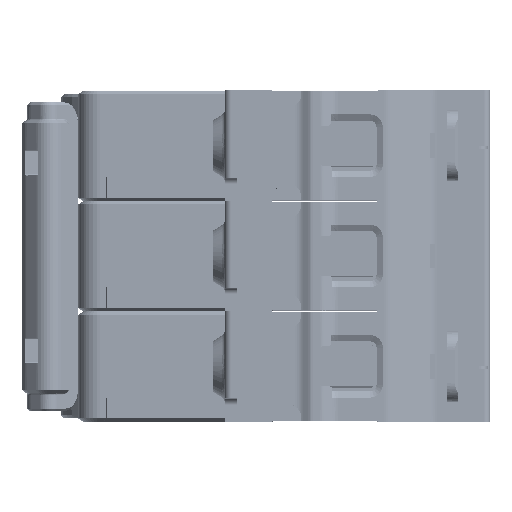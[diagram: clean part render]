
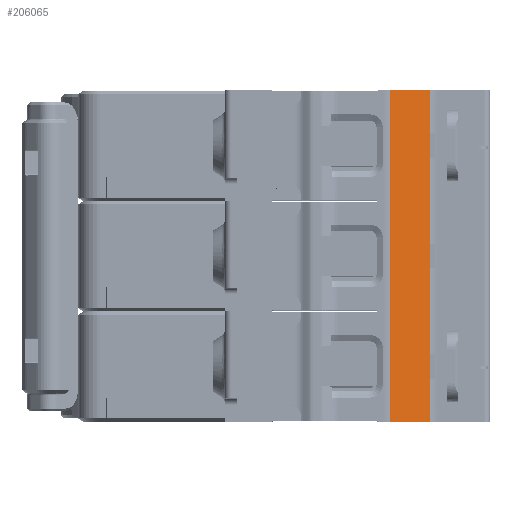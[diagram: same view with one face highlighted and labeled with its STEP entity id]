
A CAD part, top view. The second image highlights one B-rep face of the part: STEP entity #206065.
In plain terms, the highlighted planar face has unit normal (0.259, 0, 0.966).
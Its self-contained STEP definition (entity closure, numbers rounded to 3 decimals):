
#6657=DIRECTION('',(0.966,0.,-0.259));
#6658=VECTOR('',#6657,6.674);
#6659=CARTESIAN_POINT('',(35.509,0.,45.964));
#6660=LINE('',#6659,#6658);
#57794=DIRECTION('',(-0.966,0.,0.259));
#57795=VECTOR('',#57794,6.674);
#57796=CARTESIAN_POINT('',(41.955,53.1,44.236));
#57797=LINE('',#57796,#57795);
#60807=CARTESIAN_POINT('',(41.955,46.245,44.236));
#60809=DIRECTION('',(0.,1.,0.));
#60810=VECTOR('',#60809,6.855);
#60811=CARTESIAN_POINT('',(41.955,46.245,44.236));
#60812=LINE('',#60811,#60810);
#60817=DIRECTION('',(0.,1.,0.));
#60818=VECTOR('',#60817,6.855);
#60819=CARTESIAN_POINT('',(41.955,0.,44.236));
#60820=LINE('',#60819,#60818);
#60821=CARTESIAN_POINT('',(41.955,6.855,44.236));
#60863=CARTESIAN_POINT('',(41.955,10.845,44.236));
#60865=CARTESIAN_POINT('',(41.955,24.555,44.236));
#60907=CARTESIAN_POINT('',(41.955,28.545,44.236));
#60909=CARTESIAN_POINT('',(41.955,42.255,44.236));
#60979=CARTESIAN_POINT('',(41.955,46.245,44.236));
#60980=CARTESIAN_POINT('',(41.904,46.233,44.25));
#60981=CARTESIAN_POINT('',(41.836,46.182,44.268));
#60982=CARTESIAN_POINT('',(41.8,46.104,44.278));
#60983=CARTESIAN_POINT('',(41.8,46.05,44.278));
#60985=DIRECTION('',(0.,-1.,0.));
#60986=VECTOR('',#60985,3.6);
#60987=CARTESIAN_POINT('',(41.8,46.05,44.278));
#60988=LINE('',#60987,#60986);
#60989=CARTESIAN_POINT('',(41.8,42.45,44.278));
#60990=CARTESIAN_POINT('',(41.8,42.396,44.278));
#60991=CARTESIAN_POINT('',(41.836,42.318,44.268));
#60992=CARTESIAN_POINT('',(41.904,42.267,44.25));
#60993=CARTESIAN_POINT('',(41.955,42.255,44.236));
#60995=DIRECTION('',(0.,-1.,0.));
#60996=VECTOR('',#60995,13.71);
#60997=CARTESIAN_POINT('',(41.955,42.255,44.236));
#60998=LINE('',#60997,#60996);
#60999=CARTESIAN_POINT('',(41.955,28.545,44.236));
#61000=CARTESIAN_POINT('',(41.904,28.533,44.25));
#61001=CARTESIAN_POINT('',(41.836,28.482,44.268));
#61002=CARTESIAN_POINT('',(41.8,28.404,44.278));
#61003=CARTESIAN_POINT('',(41.8,28.35,44.278));
#61005=DIRECTION('',(0.,-1.,0.));
#61006=VECTOR('',#61005,3.6);
#61007=CARTESIAN_POINT('',(41.8,28.35,44.278));
#61008=LINE('',#61007,#61006);
#61009=CARTESIAN_POINT('',(41.8,24.75,44.278));
#61010=CARTESIAN_POINT('',(41.8,24.696,44.278));
#61011=CARTESIAN_POINT('',(41.836,24.618,44.268));
#61012=CARTESIAN_POINT('',(41.904,24.567,44.25));
#61013=CARTESIAN_POINT('',(41.955,24.555,44.236));
#61015=DIRECTION('',(0.,-1.,0.));
#61016=VECTOR('',#61015,13.71);
#61017=CARTESIAN_POINT('',(41.955,24.555,44.236));
#61018=LINE('',#61017,#61016);
#61019=CARTESIAN_POINT('',(41.955,10.845,44.236));
#61020=CARTESIAN_POINT('',(41.904,10.833,44.25));
#61021=CARTESIAN_POINT('',(41.836,10.782,44.268));
#61022=CARTESIAN_POINT('',(41.8,10.704,44.278));
#61023=CARTESIAN_POINT('',(41.8,10.65,44.278));
#61025=DIRECTION('',(0.,-1.,0.));
#61026=VECTOR('',#61025,3.6);
#61027=CARTESIAN_POINT('',(41.8,10.65,44.278));
#61028=LINE('',#61027,#61026);
#61029=CARTESIAN_POINT('',(41.8,7.05,44.278));
#61030=CARTESIAN_POINT('',(41.8,6.996,44.278));
#61031=CARTESIAN_POINT('',(41.836,6.918,44.268));
#61032=CARTESIAN_POINT('',(41.904,6.867,44.25));
#61033=CARTESIAN_POINT('',(41.955,6.855,44.236));
#61039=DIRECTION('',(0.,-1.,0.));
#61040=VECTOR('',#61039,53.1);
#61041=CARTESIAN_POINT('',(35.509,53.1,45.964));
#61042=LINE('',#61041,#61040);
#100439=CARTESIAN_POINT('',(35.509,0.,45.964));
#100440=VERTEX_POINT('',#100439);
#100441=CARTESIAN_POINT('',(41.955,0.,44.236));
#100442=VERTEX_POINT('',#100441);
#101238=CARTESIAN_POINT('',(41.8,7.05,44.278));
#101239=VERTEX_POINT('',#101238);
#101242=VERTEX_POINT('',#60821);
#107738=VERTEX_POINT('',#60863);
#107745=CARTESIAN_POINT('',(41.8,10.65,44.278));
#107746=VERTEX_POINT('',#107745);
#109537=CARTESIAN_POINT('',(41.8,24.75,44.278));
#109538=VERTEX_POINT('',#109537);
#109541=VERTEX_POINT('',#60865);
#116063=VERTEX_POINT('',#60907);
#116070=CARTESIAN_POINT('',(41.8,28.35,44.278));
#116071=VERTEX_POINT('',#116070);
#117880=CARTESIAN_POINT('',(41.8,42.45,44.278));
#117881=VERTEX_POINT('',#117880);
#117884=VERTEX_POINT('',#60909);
#122747=CARTESIAN_POINT('',(41.955,53.1,44.236));
#122748=VERTEX_POINT('',#122747);
#122749=CARTESIAN_POINT('',(35.509,53.1,45.964));
#122750=VERTEX_POINT('',#122749);
#125255=VERTEX_POINT('',#60807);
#125262=CARTESIAN_POINT('',(41.8,46.05,44.278));
#125263=VERTEX_POINT('',#125262);
#206033=CARTESIAN_POINT('',(35.,0.,46.1));
#206034=DIRECTION('',(0.259,0.,0.966));
#206035=DIRECTION('',(0.966,0.,-0.259));
#206036=AXIS2_PLACEMENT_3D('',#206033,#206034,#206035);
#206037=PLANE('',#206036);
#206039=ORIENTED_EDGE('',*,*,#206038,.F.);
#206040=ORIENTED_EDGE('',*,*,#202126,.F.);
#206041=ORIENTED_EDGE('',*,*,#205892,.F.);
#206043=ORIENTED_EDGE('',*,*,#206042,.T.);
#206044=ORIENTED_EDGE('',*,*,#206017,.T.);
#206046=ORIENTED_EDGE('',*,*,#206045,.T.);
#206047=ORIENTED_EDGE('',*,*,#205929,.T.);
#206049=ORIENTED_EDGE('',*,*,#206048,.T.);
#206051=ORIENTED_EDGE('',*,*,#206050,.T.);
#206053=ORIENTED_EDGE('',*,*,#206052,.T.);
#206054=ORIENTED_EDGE('',*,*,#205913,.T.);
#206056=ORIENTED_EDGE('',*,*,#206055,.T.);
#206058=ORIENTED_EDGE('',*,*,#206057,.T.);
#206060=ORIENTED_EDGE('',*,*,#206059,.T.);
#206061=ORIENTED_EDGE('',*,*,#205897,.F.);
#206062=ORIENTED_EDGE('',*,*,#134623,.F.);
#206063=EDGE_LOOP('',(#206039,#206040,#206041,#206043,#206044,#206046,#206047,
#206049,#206051,#206053,#206054,#206056,#206058,#206060,#206061,#206062));
#206064=FACE_OUTER_BOUND('',#206063,.F.);
#206065=ADVANCED_FACE('',(#206064),#206037,.T.);
#60984=B_SPLINE_CURVE_WITH_KNOTS('',3,(#60979,#60980,#60981,#60982,#60983),
.UNSPECIFIED.,.F.,.F.,(4,1,4),(0.,0.5,1.),.UNSPECIFIED.);
#60994=B_SPLINE_CURVE_WITH_KNOTS('',3,(#60989,#60990,#60991,#60992,#60993),
.UNSPECIFIED.,.F.,.F.,(4,1,4),(0.,0.5,1.),.UNSPECIFIED.);
#61004=B_SPLINE_CURVE_WITH_KNOTS('',3,(#60999,#61000,#61001,#61002,#61003),
.UNSPECIFIED.,.F.,.F.,(4,1,4),(0.,0.5,1.),.UNSPECIFIED.);
#61014=B_SPLINE_CURVE_WITH_KNOTS('',3,(#61009,#61010,#61011,#61012,#61013),
.UNSPECIFIED.,.F.,.F.,(4,1,4),(0.,0.5,1.),.UNSPECIFIED.);
#61024=B_SPLINE_CURVE_WITH_KNOTS('',3,(#61019,#61020,#61021,#61022,#61023),
.UNSPECIFIED.,.F.,.F.,(4,1,4),(0.,0.5,1.),.UNSPECIFIED.);
#61034=B_SPLINE_CURVE_WITH_KNOTS('',3,(#61029,#61030,#61031,#61032,#61033),
.UNSPECIFIED.,.F.,.F.,(4,1,4),(0.,0.5,1.),.UNSPECIFIED.);
#134623=EDGE_CURVE('',#100440,#100442,#6660,.T.);
#202126=EDGE_CURVE('',#122748,#122750,#57797,.T.);
#205892=EDGE_CURVE('',#125255,#122748,#60812,.T.);
#205897=EDGE_CURVE('',#100442,#101242,#60820,.T.);
#205913=EDGE_CURVE('',#109541,#107738,#61018,.T.);
#205929=EDGE_CURVE('',#117884,#116063,#60998,.T.);
#206017=EDGE_CURVE('',#125263,#117881,#60988,.T.);
#206038=EDGE_CURVE('',#122750,#100440,#61042,.T.);
#206042=EDGE_CURVE('',#125255,#125263,#60984,.T.);
#206045=EDGE_CURVE('',#117881,#117884,#60994,.T.);
#206048=EDGE_CURVE('',#116063,#116071,#61004,.T.);
#206050=EDGE_CURVE('',#116071,#109538,#61008,.T.);
#206052=EDGE_CURVE('',#109538,#109541,#61014,.T.);
#206055=EDGE_CURVE('',#107738,#107746,#61024,.T.);
#206057=EDGE_CURVE('',#107746,#101239,#61028,.T.);
#206059=EDGE_CURVE('',#101239,#101242,#61034,.T.);
